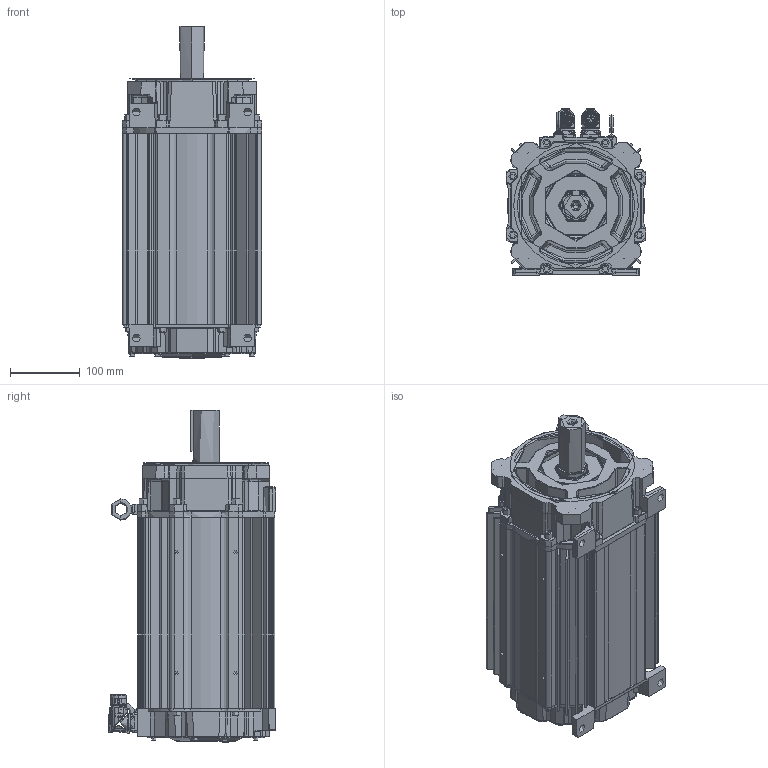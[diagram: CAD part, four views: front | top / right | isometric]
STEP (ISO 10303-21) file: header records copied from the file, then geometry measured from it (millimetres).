
FILE_DESCRIPTION((''),'2;1');
FILE_NAME('10001410822_ASM','2020-01-15T16:19:00',('VThimma'),('Rockwell Automation'),'CREO PARAMETRIC BY PTC INC, 2017380','CREO PARAMETRIC BY PTC INC, 2017380','');
FILE_SCHEMA(('CONFIG_CONTROL_DESIGN','SHAPE_APPEARANCE_LAYERS_GROUPS'));
Products named in the file (29): 10001365220; 10001238886_AF0; 10001298482_AF22; 10001284445_ASM; CH31X150; 10001406656_ASM; 10001334964; 10001398525_ASM; 10001257630_AF309; 10001300098_AF281; 10001314842_ASM; 10001586886; 10000172464; 0002-5005; 10000014325-2; 10000014331; 10000014332-460; 10000014330-460_ASM; 10000014325-1; 10000014326-1; 10000014326-M23_ASM; 10000014328-M23; 10000014325-M23_ASM; 10000569218; 10001290343; 221404-Q12; 0011-2066; 10001609981; 10001410822_ASM
Assembly tree (60 placements, depth 4):
  10001410822_ASM
    10001406656_ASM
      10001365220
      10001284445_ASM
        10001238886_AF0
        10001298482_AF22
      CH31X150  x8
    10001398525_ASM
      10001334964
    10001314842_ASM
      10001257630_AF309
      10001300098_AF281
    10001586886  x8
    10000172464  x9
    0002-5005  x2
    10000014330-460_ASM
      10000014325-2
      10000014331
      10000014332-460
    10000014325-M23_ASM
      10000014325-2
      10000014325-1
      10000014326-M23_ASM
        10000014326-1
      10000014328-M23  x4
    10000569218
    10001290343
    221404-Q12  x6
    0011-2066
    10001609981
Bounding box: 200.45 x 240.53 x 476.79 mm (x, y, z)
Topology: 0 solids, 72 shells, 7771 faces, 20303 edges, 12648 vertices
Faces by surface type: cylinder 2508, plane 1846, bspline 1666, torus 903, cone 700, sphere 143, extrusion 3, revolution 2
Entity records: 380722 total; most frequent: CARTESIAN_POINT 151518, ORIENTED_EDGE 30894, DIRECTION 25484, PRESENTATION_STYLE_ASSIGNMENT 21335, STYLED_ITEM 21335, CURVE_STYLE 15457, EDGE_CURVE 15453, AXIS2_PLACEMENT_3D 10309
